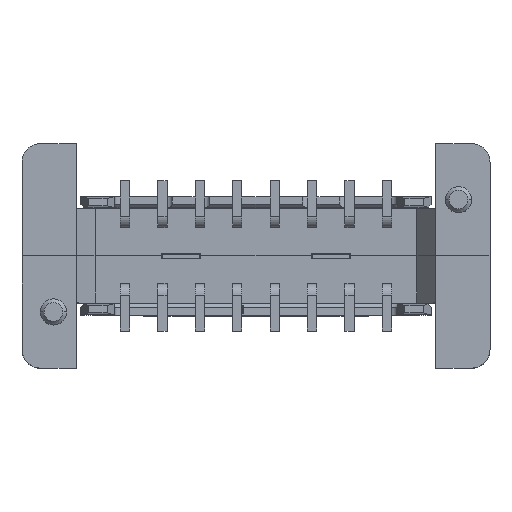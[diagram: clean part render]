
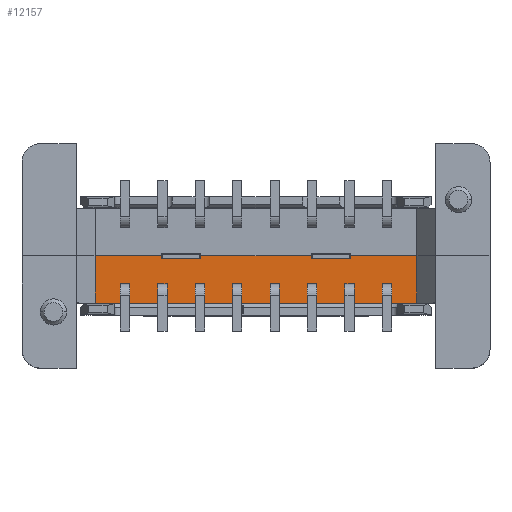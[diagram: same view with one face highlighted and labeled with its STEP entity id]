
A CAD part, top view. The second image highlights one B-rep face of the part: STEP entity #12157.
In plain terms, the highlighted planar face has unit normal (0, 0, 1) as drawn and (0, 0, -1) by its records, which use the part's own axes.
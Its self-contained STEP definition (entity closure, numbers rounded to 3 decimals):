
#595=DIRECTION('',(-1.,0.,0.));
#596=VECTOR('',#595,1.06);
#597=CARTESIAN_POINT('',(2.53,-0.225,-11.35));
#598=LINE('',#597,#596);
#616=DIRECTION('',(-1.,0.,0.));
#617=VECTOR('',#616,1.06);
#618=CARTESIAN_POINT('',(-1.47,-0.225,-11.35));
#619=LINE('',#618,#617);
#1980=DIRECTION('',(0.,-1.,0.));
#1981=VECTOR('',#1980,0.075);
#1982=CARTESIAN_POINT('',(-2.53,-0.225,-11.35));
#1983=LINE('',#1982,#1981);
#2047=DIRECTION('',(0.,-1.,0.));
#2048=VECTOR('',#2047,0.075);
#2049=CARTESIAN_POINT('',(-1.47,-0.225,-11.35));
#2050=LINE('',#2049,#2048);
#2054=DIRECTION('',(1.,0.,0.));
#2055=VECTOR('',#2054,2.94);
#2056=CARTESIAN_POINT('',(-1.47,-0.3,-11.35));
#2057=LINE('',#2056,#2055);
#2061=DIRECTION('',(0.,-1.,0.));
#2062=VECTOR('',#2061,0.075);
#2063=CARTESIAN_POINT('',(2.53,-0.225,-11.35));
#2064=LINE('',#2063,#2062);
#2068=DIRECTION('',(1.,0.,0.));
#2069=VECTOR('',#2068,1.77);
#2070=CARTESIAN_POINT('',(2.53,-0.3,-11.35));
#2071=LINE('',#2070,#2069);
#2075=DIRECTION('',(0.,-1.,0.));
#2076=VECTOR('',#2075,1.26);
#2077=CARTESIAN_POINT('',(-4.3,0.96,-11.35));
#2078=LINE('',#2077,#2076);
#2082=DIRECTION('',(1.,0.,0.));
#2083=VECTOR('',#2082,1.77);
#2084=CARTESIAN_POINT('',(-4.3,-0.3,-11.35));
#2085=LINE('',#2084,#2083);
#2131=DIRECTION('',(0.,-1.,0.));
#2132=VECTOR('',#2131,0.075);
#2133=CARTESIAN_POINT('',(1.47,-0.225,-11.35));
#2134=LINE('',#2133,#2132);
#2145=DIRECTION('',(0.,-1.,0.));
#2146=VECTOR('',#2145,1.26);
#2147=CARTESIAN_POINT('',(4.3,0.96,-11.35));
#2148=LINE('',#2147,#2146);
#2260=DIRECTION('',(1.,0.,0.));
#2261=VECTOR('',#2260,8.6);
#2262=CARTESIAN_POINT('',(-4.3,0.96,-11.35));
#2263=LINE('',#2262,#2261);
#9747=CARTESIAN_POINT('',(2.53,-0.225,-11.35));
#9748=CARTESIAN_POINT('',(1.47,-0.225,-11.35));
#9749=VERTEX_POINT('',#9747);
#9750=VERTEX_POINT('',#9748);
#9751=CARTESIAN_POINT('',(-1.47,-0.225,-11.35));
#9752=CARTESIAN_POINT('',(-2.53,-0.225,-11.35));
#9753=VERTEX_POINT('',#9751);
#9754=VERTEX_POINT('',#9752);
#10099=CARTESIAN_POINT('',(2.53,-0.3,-11.35));
#10100=VERTEX_POINT('',#10099);
#10111=CARTESIAN_POINT('',(4.3,-0.3,-11.35));
#10112=VERTEX_POINT('',#10111);
#10147=CARTESIAN_POINT('',(-2.53,-0.3,-11.35));
#10148=VERTEX_POINT('',#10147);
#10149=CARTESIAN_POINT('',(-4.3,-0.3,-11.35));
#10150=VERTEX_POINT('',#10149);
#10167=CARTESIAN_POINT('',(-1.47,-0.3,-11.35));
#10168=VERTEX_POINT('',#10167);
#10169=CARTESIAN_POINT('',(1.47,-0.3,-11.35));
#10170=VERTEX_POINT('',#10169);
#10171=CARTESIAN_POINT('',(4.3,0.96,-11.35));
#10172=VERTEX_POINT('',#10171);
#10173=CARTESIAN_POINT('',(-4.3,0.96,-11.35));
#10174=VERTEX_POINT('',#10173);
#12132=CARTESIAN_POINT('',(-3.7,0.95,-11.35));
#12133=DIRECTION('',(0.,0.,1.));
#12134=DIRECTION('',(1.,0.,0.));
#12135=AXIS2_PLACEMENT_3D('',#12132,#12133,#12134);
#12136=PLANE('',#12135);
#12137=ORIENTED_EDGE('',*,*,#11496,.F.);
#12139=ORIENTED_EDGE('',*,*,#12138,.T.);
#12141=ORIENTED_EDGE('',*,*,#12140,.T.);
#12143=ORIENTED_EDGE('',*,*,#12142,.F.);
#12144=ORIENTED_EDGE('',*,*,#11488,.F.);
#12145=ORIENTED_EDGE('',*,*,#11952,.T.);
#12146=ORIENTED_EDGE('',*,*,#11980,.T.);
#12148=ORIENTED_EDGE('',*,*,#12147,.F.);
#12150=ORIENTED_EDGE('',*,*,#12149,.F.);
#12152=ORIENTED_EDGE('',*,*,#12151,.T.);
#12153=ORIENTED_EDGE('',*,*,#12102,.T.);
#12154=ORIENTED_EDGE('',*,*,#12091,.F.);
#12155=EDGE_LOOP('',(#12137,#12139,#12141,#12143,#12144,#12145,#12146,#12148,
#12150,#12152,#12153,#12154));
#12156=FACE_OUTER_BOUND('',#12155,.F.);
#11488=EDGE_CURVE('',#9749,#9750,#598,.T.);
#11496=EDGE_CURVE('',#9753,#9754,#619,.T.);
#11952=EDGE_CURVE('',#9749,#10100,#2064,.T.);
#11980=EDGE_CURVE('',#10100,#10112,#2071,.T.);
#12091=EDGE_CURVE('',#9754,#10148,#1983,.T.);
#12102=EDGE_CURVE('',#10150,#10148,#2085,.T.);
#12138=EDGE_CURVE('',#9753,#10168,#2050,.T.);
#12140=EDGE_CURVE('',#10168,#10170,#2057,.T.);
#12142=EDGE_CURVE('',#9750,#10170,#2134,.T.);
#12147=EDGE_CURVE('',#10172,#10112,#2148,.T.);
#12149=EDGE_CURVE('',#10174,#10172,#2263,.T.);
#12151=EDGE_CURVE('',#10174,#10150,#2078,.T.);
#12157=ADVANCED_FACE('',(#12156),#12136,.F.);
